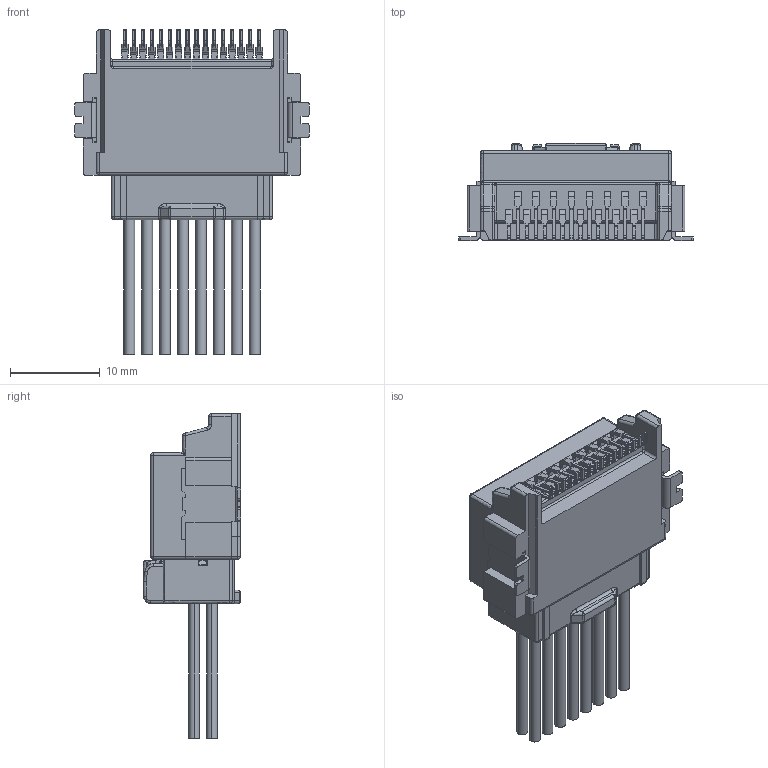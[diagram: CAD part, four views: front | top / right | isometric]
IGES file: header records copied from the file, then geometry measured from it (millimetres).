
Start section: SolidWorks IGES file using analytic representation for surfaces
Global section: file name: C:\Users\08803\Desktop\PDM\ISH全シリーズモデル(STEP)2017.2.6時点\水平\2列\16P\ISHV\ISHV 16P CONNECTOR.IGS; native system: SolidWorks 2017; preprocessor: SolidWorks 2017; author: 08803; date: 180821.142717; units: millimetre
Bounding box: 26.1 x 10.85 x 36.15 mm (x, y, z)
Surface area: 3033 mm2 (no closed solid volume)
Topology: 0 solids, 0 shells, 1306 faces, 8743 edges, 8721 vertices
Faces by surface type: bspline 872, revolution 434
